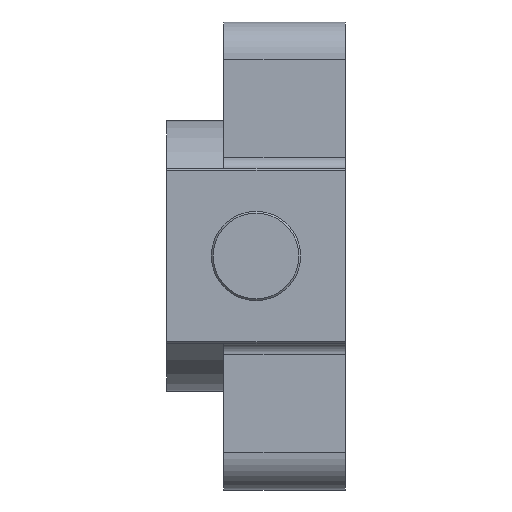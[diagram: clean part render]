
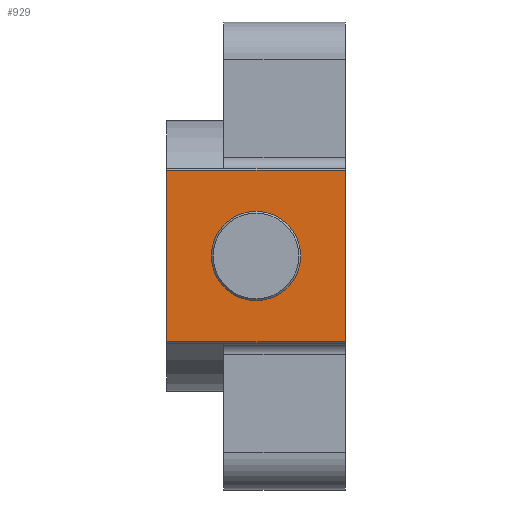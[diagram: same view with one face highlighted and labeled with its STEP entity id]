
A CAD part, left-side view. The second image highlights one B-rep face of the part: STEP entity #929.
In plain terms, the highlighted planar face has unit normal (-1, 0, 0).
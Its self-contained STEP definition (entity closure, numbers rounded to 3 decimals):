
#626 = VERTEX_POINT ( 'NONE', #1860 ) ;
#627 = VERTEX_POINT ( 'NONE', #1857 ) ;
#634 = EDGE_CURVE ( 'NONE', #626, #627, #1796, .T. ) ;
#869 = VERTEX_POINT ( 'NONE', #1543 ) ;
#870 = ORIENTED_EDGE ( 'NONE', *, *, #882, .T. ) ;
#871 = EDGE_LOOP ( 'NONE', ( #883, #913 ) ) ;
#882 = EDGE_CURVE ( 'NONE', #869, #989, #1523, .T. ) ;
#883 = ORIENTED_EDGE ( 'NONE', *, *, #884, .F. ) ;
#884 = EDGE_CURVE ( 'NONE', #627, #626, #1346, .T. ) ;
#913 = ORIENTED_EDGE ( 'NONE', *, *, #634, .F. ) ;
#929 = ADVANCED_FACE ( 'NONE', ( #1445, #1459 ), #1458, .T. ) ;
#930 = EDGE_LOOP ( 'NONE', ( #931, #990, #945, #870 ) ) ;
#931 = ORIENTED_EDGE ( 'NONE', *, *, #979, .F. ) ;
#945 = ORIENTED_EDGE ( 'NONE', *, *, #946, .T. ) ;
#946 = EDGE_CURVE ( 'NONE', #971, #869, #1500, .T. ) ;
#970 = EDGE_CURVE ( 'NONE', #988, #971, #1519, .T. ) ;
#971 = VERTEX_POINT ( 'NONE', #1515 ) ;
#979 = EDGE_CURVE ( 'NONE', #988, #989, #1278, .T. ) ;
#988 = VERTEX_POINT ( 'NONE', #1291 ) ;
#989 = VERTEX_POINT ( 'NONE', #1318 ) ;
#990 = ORIENTED_EDGE ( 'NONE', *, *, #970, .T. ) ;
#1277 = CARTESIAN_POINT ( 'NONE',  ( -145.5, 0., 24.5 ) ) ;
#1278 = LINE ( 'NONE', #1277, #1320 ) ;
#1291 = CARTESIAN_POINT ( 'NONE',  ( -145.5, 0., -24. ) ) ;
#1318 = CARTESIAN_POINT ( 'NONE',  ( -145.5, 0., 24. ) ) ;
#1319 = DIRECTION ( 'NONE',  ( 0., 0., 1. ) ) ;
#1320 = VECTOR ( 'NONE', #1319, 1000. ) ;
#1346 = CIRCLE ( 'NONE', #1372, 12.5 ) ;
#1363 = DIRECTION ( 'NONE',  ( 0., 0., 1. ) ) ;
#1364 = DIRECTION ( 'NONE',  ( -1., 0., 0. ) ) ;
#1365 = CARTESIAN_POINT ( 'NONE',  ( -145.5, -25., 0. ) ) ;
#1372 = AXIS2_PLACEMENT_3D ( 'NONE', #1365, #1364, #1363 ) ;
#1445 = FACE_OUTER_BOUND ( 'NONE', #930, .T. ) ;
#1457 = AXIS2_PLACEMENT_3D ( 'NONE', #1477, #1476, #1475 ) ;
#1458 = PLANE ( 'NONE',  #1457 ) ;
#1459 = FACE_BOUND ( 'NONE', #871, .T. ) ;
#1475 = DIRECTION ( 'NONE',  ( 0., 0., 1. ) ) ;
#1476 = DIRECTION ( 'NONE',  ( -1., 0., 0. ) ) ;
#1477 = CARTESIAN_POINT ( 'NONE',  ( -145.5, -50., 24.5 ) ) ;
#1486 = VECTOR ( 'NONE', #1498, 1000. ) ;
#1498 = DIRECTION ( 'NONE',  ( 0., 0., 1. ) ) ;
#1499 = CARTESIAN_POINT ( 'NONE',  ( -145.5, -50., 24.5 ) ) ;
#1500 = LINE ( 'NONE', #1499, #1486 ) ;
#1515 = CARTESIAN_POINT ( 'NONE',  ( -145.5, -50., -24. ) ) ;
#1516 = DIRECTION ( 'NONE',  ( 0., -1., 0. ) ) ;
#1517 = VECTOR ( 'NONE', #1516, 1000. ) ;
#1518 = CARTESIAN_POINT ( 'NONE',  ( -145.5, -50., -24. ) ) ;
#1519 = LINE ( 'NONE', #1518, #1517 ) ;
#1520 = DIRECTION ( 'NONE',  ( 0., 1., 0. ) ) ;
#1521 = VECTOR ( 'NONE', #1520, 1000. ) ;
#1522 = CARTESIAN_POINT ( 'NONE',  ( -145.5, -50., 24. ) ) ;
#1523 = LINE ( 'NONE', #1522, #1521 ) ;
#1543 = CARTESIAN_POINT ( 'NONE',  ( -145.5, -50., 24. ) ) ;
#1796 = CIRCLE ( 'NONE', #1889, 12.5 ) ;
#1857 = CARTESIAN_POINT ( 'NONE',  ( -145.5, -25., -12.5 ) ) ;
#1860 = CARTESIAN_POINT ( 'NONE',  ( -145.5, -25., 12.5 ) ) ;
#1886 = DIRECTION ( 'NONE',  ( 0., 0., 1. ) ) ;
#1887 = DIRECTION ( 'NONE',  ( -1., 0., 0. ) ) ;
#1888 = CARTESIAN_POINT ( 'NONE',  ( -145.5, -25., 0. ) ) ;
#1889 = AXIS2_PLACEMENT_3D ( 'NONE', #1888, #1887, #1886 ) ;
